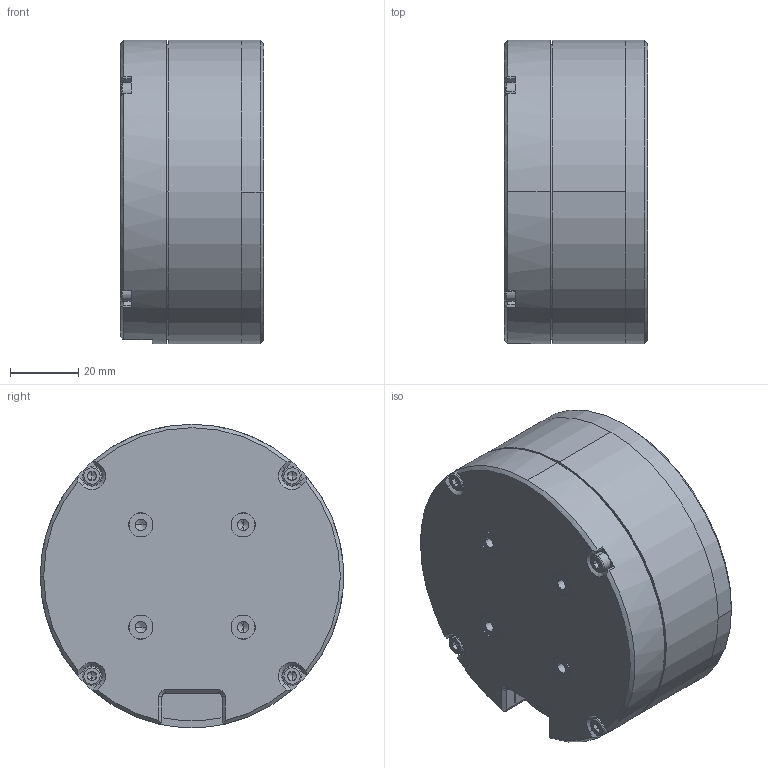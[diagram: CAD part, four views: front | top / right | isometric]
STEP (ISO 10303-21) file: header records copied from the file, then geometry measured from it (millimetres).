
FILE_DESCRIPTION (( 'STEP AP214' ), '1' );
FILE_NAME ('RMD-9015.step', '2024-01-23T08:26:14', ( '' ), ( '' ), 'SwSTEP 2.0', 'SolidWorks 2020', '' );
FILE_SCHEMA (( 'AUTOMOTIVE_DESIGN' ));
Length unit declared in the file: millimetre
Products named in the file (1): RMD-9015
Bounding box: 42 x 89 x 89 mm (x, y, z)
Volume: 76057.2 mm3; surface area: 68850.2 mm2
Topology: 9 solids, 9 shells, 465 faces, 1212 edges, 767 vertices
Faces by surface type: cylinder 223, plane 172, cone 62, bspline 8
Entity records: 14565 total; most frequent: DIRECTION 2645, CARTESIAN_POINT 2635, ORIENTED_EDGE 2372, EDGE_CURVE 1186, AXIS2_PLACEMENT_3D 1031, VERTEX_POINT 767, VECTOR 583, LINE 583
